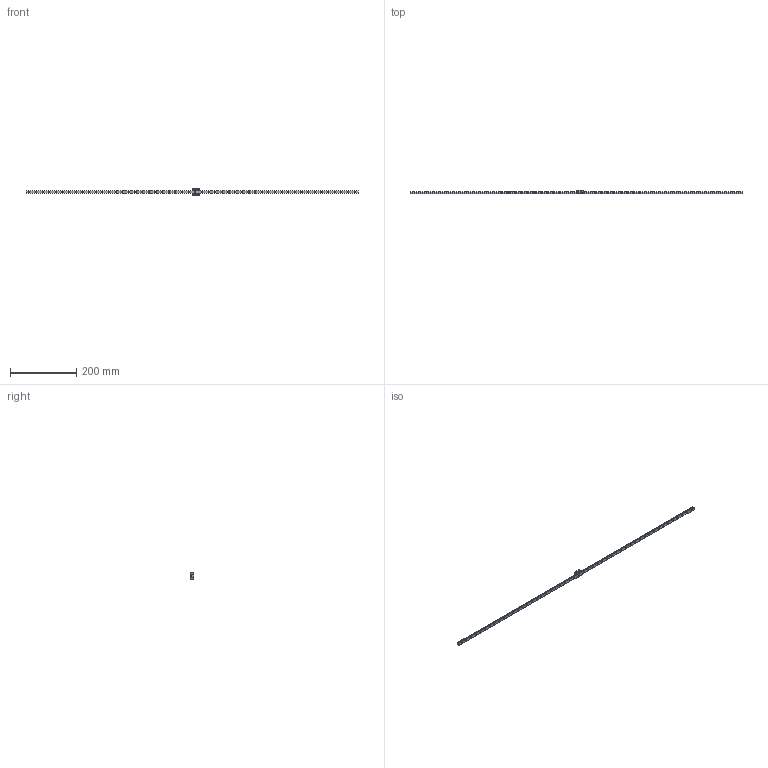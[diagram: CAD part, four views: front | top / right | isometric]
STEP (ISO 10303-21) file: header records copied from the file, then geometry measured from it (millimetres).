
FILE_DESCRIPTION(/* description */ ('STEP AP214'),/* implementation_level */ '2;1');
FILE_NAME(/* name */ 'SRS9XSSS-1000LM_G10_0_500_0_0_0_1',/* time_stamp */ '2024-01-22T14:17:05+01:00',/* author */ ('License CC BY-ND 4.0'),/* organization */ ('CADENAS'),/* preprocessor_version */ 'ST-DEVELOPER v19.3',/* originating_system */ 'PARTsolutions',/* authorisation */ ' ');
FILE_SCHEMA (('AUTOMOTIVE_DESIGN {1 0 10303 214 3 1 1}'));
Length unit declared in the file: millimetre
Products named in the file (3): SRS9XSSS-1000LM_G10_0_500_0_0_0_1; SRS9XS100010 Track; SRS9XSSS1 Slider
Assembly tree (2 placements, depth 2):
  SRS9XSSS-1000LM_G10_0_500_0_0_0_1
    SRS9XS100010 Track
    SRS9XSSS1 Slider
Bounding box: 1000 x 10 x 20 mm (x, y, z)
Volume: 42509 mm3; surface area: 33930.3 mm2
Topology: 2 solids, 2 shells, 302 faces, 708 edges, 462 vertices
Faces by surface type: plane 154, cylinder 144, cone 4
Full cylindrical faces by diameter (mm): 1.6 x2, 2.459 x2, 3.5 x50, 6 x50
Entity records: 8417 total; most frequent: DIRECTION 1504, CARTESIAN_POINT 1361, ORIENTED_EDGE 1192, AXIS2_PLACEMENT_3D 603, EDGE_CURVE 596, FACE_BOUND 564, EDGE_LOOP 562, VERTEX_POINT 460
